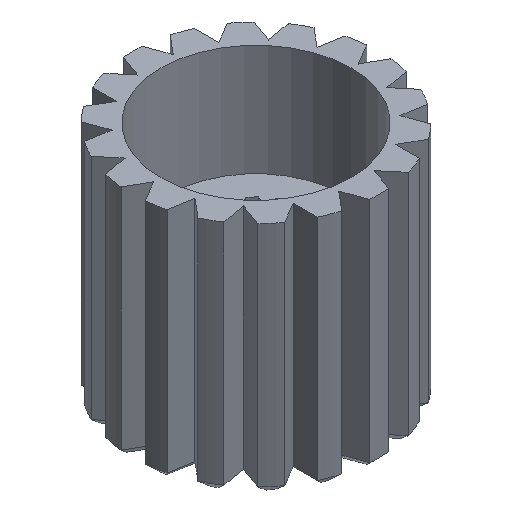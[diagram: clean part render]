
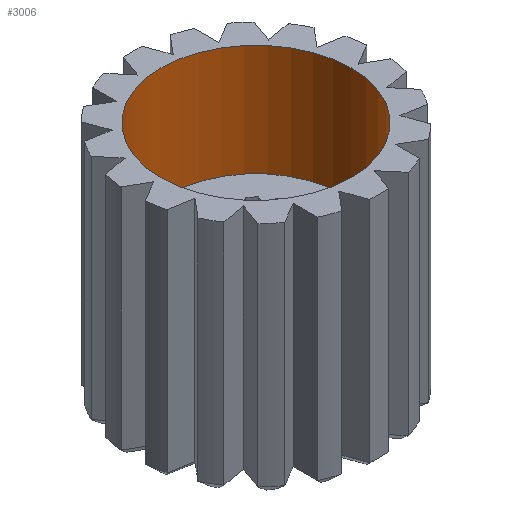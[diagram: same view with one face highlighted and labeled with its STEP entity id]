
A CAD part, isometric view. The second image highlights one B-rep face of the part: STEP entity #3006.
In plain terms, the highlighted cylindrical face has radius 5 mm (diameter 10 mm), a full revolution.
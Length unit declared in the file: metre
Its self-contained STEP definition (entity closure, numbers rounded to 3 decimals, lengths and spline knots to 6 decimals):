
#102=CYLINDRICAL_SURFACE('',#3312,0.005);
#138=CIRCLE('',#3165,0.005);
#210=CIRCLE('',#3311,0.005);
#670=ORIENTED_EDGE('',*,*,#1435,.T.);
#671=ORIENTED_EDGE('',*,*,#1170,.T.);
#1170=EDGE_CURVE('',#1596,#1596,#138,.T.);
#1435=EDGE_CURVE('',#1792,#1792,#210,.F.);
#1596=VERTEX_POINT('',#4437);
#1792=VERTEX_POINT('',#4970);
#2506=EDGE_LOOP('',(#670));
#2507=EDGE_LOOP('',(#671));
#2694=FACE_BOUND('',#2506,.T.);
#2695=FACE_BOUND('',#2507,.T.);
#3006=ADVANCED_FACE('',(#2694,#2695),#102,.F.);
#3165=AXIS2_PLACEMENT_3D('',#4436,#3550,#3551);
#3311=AXIS2_PLACEMENT_3D('',#4969,#4033,#4034);
#3312=AXIS2_PLACEMENT_3D('',#4971,#4035,#4036);
#3550=DIRECTION('',(0.,0.,1.));
#3551=DIRECTION('',(1.,0.,0.));
#4033=DIRECTION('',(0.,0.,1.));
#4034=DIRECTION('',(1.,0.,0.));
#4035=DIRECTION('',(0.,0.,-1.));
#4036=DIRECTION('',(-1.,0.,0.));
#4436=CARTESIAN_POINT('',(0.,0.,0.0125));
#4437=CARTESIAN_POINT('',(0.005,0.,0.0125));
#4969=CARTESIAN_POINT('',(0.,0.,0.0015));
#4970=CARTESIAN_POINT('',(0.005,0.,0.0015));
#4971=CARTESIAN_POINT('',(0.,0.,0.0125));
